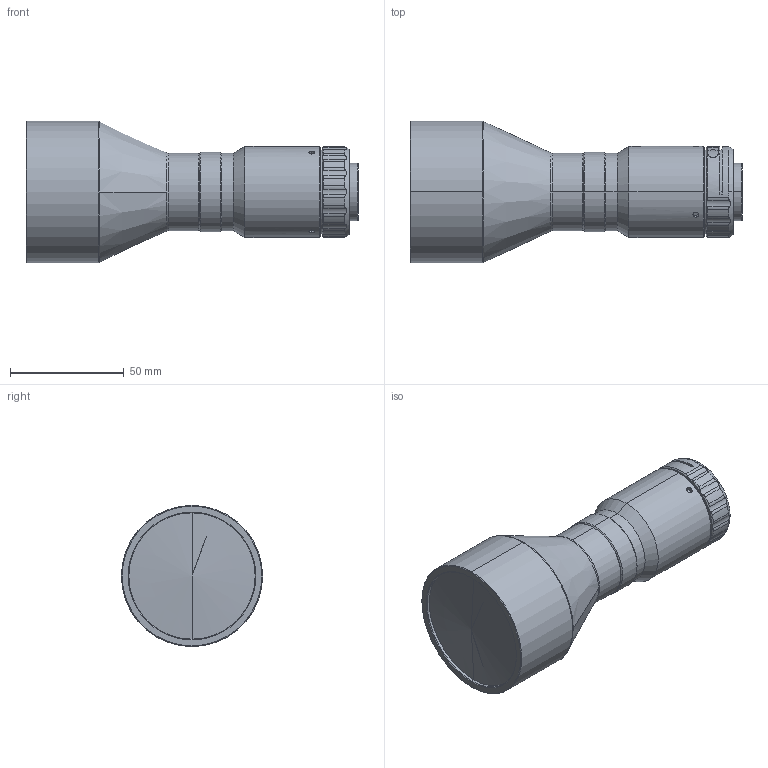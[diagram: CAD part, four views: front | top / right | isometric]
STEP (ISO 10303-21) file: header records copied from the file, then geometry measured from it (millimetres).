
FILE_DESCRIPTION (( 'STEP AP203' ), '1' );
FILE_NAME ('DTCM110-42-AL.STEP', '2019-11-18T09:54:48', ( 'Windows 蚚誧' ), ( '' ), 'SwSTEP 2.0', 'SolidWorks 2017', '' );
FILE_SCHEMA (( 'CONFIG_CONTROL_DESIGN' ));
Length unit declared in the file: millimetre
Products named in the file (1): DTCM110-42-AL
Bounding box: 145.86 x 62 x 62 mm (x, y, z)
Volume: 241390.6 mm3; surface area: 26296.3 mm2
Topology: 2 solids, 2 shells, 120 faces, 306 edges, 192 vertices
Faces by surface type: cylinder 66, cone 33, plane 17, bspline 4
Entity records: 4209 total; most frequent: CARTESIAN_POINT 1333, ORIENTED_EDGE 600, DIRECTION 570, EDGE_CURVE 300, AXIS2_PLACEMENT_3D 231, VERTEX_POINT 192, EDGE_LOOP 130, FACE_OUTER_BOUND 120
